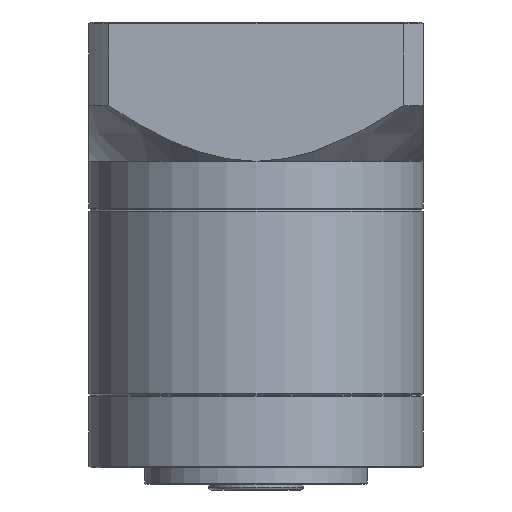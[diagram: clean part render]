
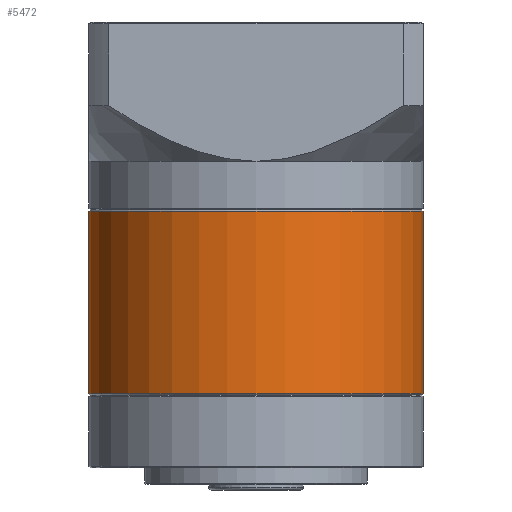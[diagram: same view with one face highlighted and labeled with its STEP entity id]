
A CAD part, front view. The second image highlights one B-rep face of the part: STEP entity #5472.
In plain terms, the highlighted cylindrical face has radius 30 mm (diameter 60 mm), a partial arc.
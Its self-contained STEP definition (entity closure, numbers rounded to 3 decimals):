
#1049 = CARTESIAN_POINT ( 'NONE',  ( -100.553, 17.545, 4.781 ) ) ;
#2161 = AXIS2_PLACEMENT_3D ( 'NONE', #12169, #54213, #89410 ) ;
#5472 = ADVANCED_FACE ( 'NONE', ( #19837 ), #67025, .T. ) ;
#8668 = CARTESIAN_POINT ( 'NONE',  ( -70.553, 17.545, -28.019 ) ) ;
#9380 = CARTESIAN_POINT ( 'NONE',  ( -40.553, 17.545, -28.019 ) ) ;
#12143 = CARTESIAN_POINT ( 'NONE',  ( -40.553, 17.545, 5.031 ) ) ;
#12169 = CARTESIAN_POINT ( 'NONE',  ( -70.553, 17.545, 5.031 ) ) ;
#15636 = DIRECTION ( 'NONE',  ( 0., 0., -1. ) ) ;
#15681 = DIRECTION ( 'NONE',  ( 1., 0., 0. ) ) ;
#16731 = VERTEX_POINT ( 'NONE', #57107 ) ;
#19837 = FACE_OUTER_BOUND ( 'NONE', #73022, .T. ) ;
#20824 = CIRCLE ( 'NONE', #71255, 30. ) ;
#24546 = ORIENTED_EDGE ( 'NONE', *, *, #67975, .T. ) ;
#25270 = ORIENTED_EDGE ( 'NONE', *, *, #62504, .F. ) ;
#26120 = ORIENTED_EDGE ( 'NONE', *, *, #41138, .T. ) ;
#26231 = EDGE_CURVE ( 'NONE', #16731, #84770, #55730, .T. ) ;
#27382 = LINE ( 'NONE', #12143, #62659 ) ;
#33674 = LINE ( 'NONE', #56038, #68834 ) ;
#39686 = VERTEX_POINT ( 'NONE', #1049 ) ;
#41138 = EDGE_CURVE ( 'NONE', #71678, #39686, #20824, .T. ) ;
#48961 = DIRECTION ( 'NONE',  ( 0., 0., -1. ) ) ;
#51053 = AXIS2_PLACEMENT_3D ( 'NONE', #8668, #57743, #15681 ) ;
#54213 = DIRECTION ( 'NONE',  ( 0., 0., -1. ) ) ;
#55730 = CIRCLE ( 'NONE', #51053, 30. ) ;
#56038 = CARTESIAN_POINT ( 'NONE',  ( -100.553, 17.545, 5.031 ) ) ;
#57107 = CARTESIAN_POINT ( 'NONE',  ( -100.553, 17.545, -28.019 ) ) ;
#57705 = CARTESIAN_POINT ( 'NONE',  ( -70.553, 17.545, 4.781 ) ) ;
#57743 = DIRECTION ( 'NONE',  ( 0., 0., 1. ) ) ;
#57926 = ORIENTED_EDGE ( 'NONE', *, *, #26231, .T. ) ;
#61288 = DIRECTION ( 'NONE',  ( 0., 0., -1. ) ) ;
#62504 = EDGE_CURVE ( 'NONE', #71678, #84770, #27382, .T. ) ;
#62659 = VECTOR ( 'NONE', #61288, 1000. ) ;
#64751 = DIRECTION ( 'NONE',  ( 1., 0., 0. ) ) ;
#67025 = CYLINDRICAL_SURFACE ( 'NONE', #2161, 30. ) ;
#67975 = EDGE_CURVE ( 'NONE', #39686, #16731, #33674, .T. ) ;
#68834 = VECTOR ( 'NONE', #48961, 1000. ) ;
#71255 = AXIS2_PLACEMENT_3D ( 'NONE', #57705, #15636, #64751 ) ;
#71256 = CARTESIAN_POINT ( 'NONE',  ( -40.553, 17.545, 4.781 ) ) ;
#71678 = VERTEX_POINT ( 'NONE', #71256 ) ;
#73022 = EDGE_LOOP ( 'NONE', ( #25270, #26120, #24546, #57926 ) ) ;
#84770 = VERTEX_POINT ( 'NONE', #9380 ) ;
#89410 = DIRECTION ( 'NONE',  ( -1., 0., 0. ) ) ;
